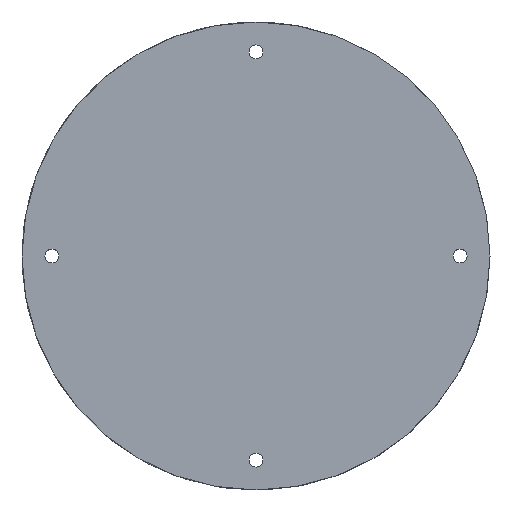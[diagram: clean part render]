
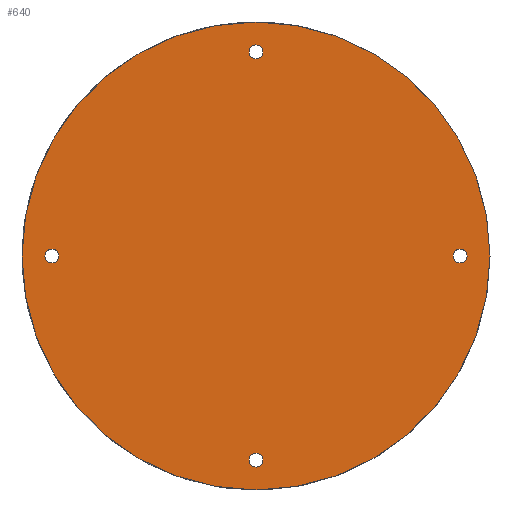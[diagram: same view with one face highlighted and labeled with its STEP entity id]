
A CAD part, top view. The second image highlights one B-rep face of the part: STEP entity #640.
In plain terms, the highlighted planar face has unit normal (0, 0, 1).
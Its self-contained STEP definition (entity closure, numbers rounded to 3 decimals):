
#33 = CYLINDRICAL_SURFACE('',#34,47.);
#34 = AXIS2_PLACEMENT_3D('',#35,#36,#37);
#35 = CARTESIAN_POINT('',(0.,0.,0.));
#36 = DIRECTION('',(-0.,-0.,-1.));
#37 = DIRECTION('',(1.,0.,0.));
#64 = VERTEX_POINT('',#65);
#65 = CARTESIAN_POINT('',(47.,0.,12.));
#86 = EDGE_CURVE('',#64,#64,#87,.T.);
#87 = SURFACE_CURVE('',#88,(#93,#100),.PCURVE_S1.);
#88 = CIRCLE('',#89,47.);
#89 = AXIS2_PLACEMENT_3D('',#90,#91,#92);
#90 = CARTESIAN_POINT('',(0.,0.,12.));
#91 = DIRECTION('',(0.,0.,1.));
#92 = DIRECTION('',(1.,0.,0.));
#93 = PCURVE('',#33,#94);
#94 = DEFINITIONAL_REPRESENTATION('',(#95),#99);
#95 = LINE('',#96,#97);
#96 = CARTESIAN_POINT('',(-0.,-12.));
#97 = VECTOR('',#98,1.);
#98 = DIRECTION('',(-1.,0.));
#99 = ( GEOMETRIC_REPRESENTATION_CONTEXT(2) 
PARAMETRIC_REPRESENTATION_CONTEXT() REPRESENTATION_CONTEXT('2D SPACE',''
  ) );
#100 = PCURVE('',#101,#106);
#101 = PLANE('',#102);
#102 = AXIS2_PLACEMENT_3D('',#103,#104,#105);
#103 = CARTESIAN_POINT('',(0.,0.,12.));
#104 = DIRECTION('',(0.,0.,1.));
#105 = DIRECTION('',(1.,0.,-0.));
#106 = DEFINITIONAL_REPRESENTATION('',(#107),#111);
#107 = CIRCLE('',#108,47.);
#108 = AXIS2_PLACEMENT_2D('',#109,#110);
#109 = CARTESIAN_POINT('',(0.,0.));
#110 = DIRECTION('',(1.,0.));
#111 = ( GEOMETRIC_REPRESENTATION_CONTEXT(2) 
PARAMETRIC_REPRESENTATION_CONTEXT() REPRESENTATION_CONTEXT('2D SPACE',''
  ) );
#640 = ADVANCED_FACE('',(#641,#644,#679,#714,#749),#101,.T.);
#641 = FACE_BOUND('',#642,.T.);
#642 = EDGE_LOOP('',(#643));
#643 = ORIENTED_EDGE('',*,*,#86,.T.);
#644 = FACE_BOUND('',#645,.T.);
#645 = EDGE_LOOP('',(#646));
#646 = ORIENTED_EDGE('',*,*,#647,.T.);
#647 = EDGE_CURVE('',#648,#648,#650,.T.);
#648 = VERTEX_POINT('',#649);
#649 = CARTESIAN_POINT('',(1.4,-41.,12.));
#650 = SURFACE_CURVE('',#651,(#656,#667),.PCURVE_S1.);
#651 = CIRCLE('',#652,1.4);
#652 = AXIS2_PLACEMENT_3D('',#653,#654,#655);
#653 = CARTESIAN_POINT('',(0.,-41.,12.));
#654 = DIRECTION('',(0.,0.,-1.));
#655 = DIRECTION('',(1.,0.,0.));
#656 = PCURVE('',#101,#657);
#657 = DEFINITIONAL_REPRESENTATION('',(#658),#666);
#658 = ( BOUNDED_CURVE() B_SPLINE_CURVE(2,(#659,#660,#661,#662,#663,#664
,#665),.UNSPECIFIED.,.T.,.F.) B_SPLINE_CURVE_WITH_KNOTS((1,2,2,2,2,1),(
    -2.094,0.,2.094,4.189,6.283,
8.378),.UNSPECIFIED.) CURVE() GEOMETRIC_REPRESENTATION_ITEM() 
RATIONAL_B_SPLINE_CURVE((1.,0.5,1.,0.5,1.,0.5,1.)) REPRESENTATION_ITEM(
  '') );
#659 = CARTESIAN_POINT('',(1.4,-41.));
#660 = CARTESIAN_POINT('',(1.4,-43.425));
#661 = CARTESIAN_POINT('',(-0.7,-42.212));
#662 = CARTESIAN_POINT('',(-2.8,-41.));
#663 = CARTESIAN_POINT('',(-0.7,-39.788));
#664 = CARTESIAN_POINT('',(1.4,-38.575));
#665 = CARTESIAN_POINT('',(1.4,-41.));
#666 = ( GEOMETRIC_REPRESENTATION_CONTEXT(2) 
PARAMETRIC_REPRESENTATION_CONTEXT() REPRESENTATION_CONTEXT('2D SPACE',''
  ) );
#667 = PCURVE('',#668,#673);
#668 = CYLINDRICAL_SURFACE('',#669,1.4);
#669 = AXIS2_PLACEMENT_3D('',#670,#671,#672);
#670 = CARTESIAN_POINT('',(0.,-41.,-2.));
#671 = DIRECTION('',(-0.,-0.,-1.));
#672 = DIRECTION('',(1.,0.,0.));
#673 = DEFINITIONAL_REPRESENTATION('',(#674),#678);
#674 = LINE('',#675,#676);
#675 = CARTESIAN_POINT('',(-6.283,-14.));
#676 = VECTOR('',#677,1.);
#677 = DIRECTION('',(1.,-0.));
#678 = ( GEOMETRIC_REPRESENTATION_CONTEXT(2) 
PARAMETRIC_REPRESENTATION_CONTEXT() REPRESENTATION_CONTEXT('2D SPACE',''
  ) );
#679 = FACE_BOUND('',#680,.T.);
#680 = EDGE_LOOP('',(#681));
#681 = ORIENTED_EDGE('',*,*,#682,.T.);
#682 = EDGE_CURVE('',#683,#683,#685,.T.);
#683 = VERTEX_POINT('',#684);
#684 = CARTESIAN_POINT('',(-39.6,0.,12.));
#685 = SURFACE_CURVE('',#686,(#691,#702),.PCURVE_S1.);
#686 = CIRCLE('',#687,1.4);
#687 = AXIS2_PLACEMENT_3D('',#688,#689,#690);
#688 = CARTESIAN_POINT('',(-41.,0.,12.));
#689 = DIRECTION('',(0.,0.,-1.));
#690 = DIRECTION('',(1.,0.,0.));
#691 = PCURVE('',#101,#692);
#692 = DEFINITIONAL_REPRESENTATION('',(#693),#701);
#693 = ( BOUNDED_CURVE() B_SPLINE_CURVE(2,(#694,#695,#696,#697,#698,#699
,#700),.UNSPECIFIED.,.T.,.F.) B_SPLINE_CURVE_WITH_KNOTS((1,2,2,2,2,1),(
    -2.094,0.,2.094,4.189,6.283,
8.378),.UNSPECIFIED.) CURVE() GEOMETRIC_REPRESENTATION_ITEM() 
RATIONAL_B_SPLINE_CURVE((1.,0.5,1.,0.5,1.,0.5,1.)) REPRESENTATION_ITEM(
  '') );
#694 = CARTESIAN_POINT('',(-39.6,0.));
#695 = CARTESIAN_POINT('',(-39.6,-2.425));
#696 = CARTESIAN_POINT('',(-41.7,-1.212));
#697 = CARTESIAN_POINT('',(-43.8,0.));
#698 = CARTESIAN_POINT('',(-41.7,1.212));
#699 = CARTESIAN_POINT('',(-39.6,2.425));
#700 = CARTESIAN_POINT('',(-39.6,0.));
#701 = ( GEOMETRIC_REPRESENTATION_CONTEXT(2) 
PARAMETRIC_REPRESENTATION_CONTEXT() REPRESENTATION_CONTEXT('2D SPACE',''
  ) );
#702 = PCURVE('',#703,#708);
#703 = CYLINDRICAL_SURFACE('',#704,1.4);
#704 = AXIS2_PLACEMENT_3D('',#705,#706,#707);
#705 = CARTESIAN_POINT('',(-41.,0.,-2.));
#706 = DIRECTION('',(-0.,-0.,-1.));
#707 = DIRECTION('',(1.,0.,0.));
#708 = DEFINITIONAL_REPRESENTATION('',(#709),#713);
#709 = LINE('',#710,#711);
#710 = CARTESIAN_POINT('',(-6.283,-14.));
#711 = VECTOR('',#712,1.);
#712 = DIRECTION('',(1.,-0.));
#713 = ( GEOMETRIC_REPRESENTATION_CONTEXT(2) 
PARAMETRIC_REPRESENTATION_CONTEXT() REPRESENTATION_CONTEXT('2D SPACE',''
  ) );
#714 = FACE_BOUND('',#715,.T.);
#715 = EDGE_LOOP('',(#716));
#716 = ORIENTED_EDGE('',*,*,#717,.T.);
#717 = EDGE_CURVE('',#718,#718,#720,.T.);
#718 = VERTEX_POINT('',#719);
#719 = CARTESIAN_POINT('',(42.4,0.,12.));
#720 = SURFACE_CURVE('',#721,(#726,#737),.PCURVE_S1.);
#721 = CIRCLE('',#722,1.4);
#722 = AXIS2_PLACEMENT_3D('',#723,#724,#725);
#723 = CARTESIAN_POINT('',(41.,0.,12.));
#724 = DIRECTION('',(0.,0.,-1.));
#725 = DIRECTION('',(1.,0.,0.));
#726 = PCURVE('',#101,#727);
#727 = DEFINITIONAL_REPRESENTATION('',(#728),#736);
#728 = ( BOUNDED_CURVE() B_SPLINE_CURVE(2,(#729,#730,#731,#732,#733,#734
,#735),.UNSPECIFIED.,.T.,.F.) B_SPLINE_CURVE_WITH_KNOTS((1,2,2,2,2,1),(
    -2.094,0.,2.094,4.189,6.283,
8.378),.UNSPECIFIED.) CURVE() GEOMETRIC_REPRESENTATION_ITEM() 
RATIONAL_B_SPLINE_CURVE((1.,0.5,1.,0.5,1.,0.5,1.)) REPRESENTATION_ITEM(
  '') );
#729 = CARTESIAN_POINT('',(42.4,0.));
#730 = CARTESIAN_POINT('',(42.4,-2.425));
#731 = CARTESIAN_POINT('',(40.3,-1.212));
#732 = CARTESIAN_POINT('',(38.2,0.));
#733 = CARTESIAN_POINT('',(40.3,1.212));
#734 = CARTESIAN_POINT('',(42.4,2.425));
#735 = CARTESIAN_POINT('',(42.4,0.));
#736 = ( GEOMETRIC_REPRESENTATION_CONTEXT(2) 
PARAMETRIC_REPRESENTATION_CONTEXT() REPRESENTATION_CONTEXT('2D SPACE',''
  ) );
#737 = PCURVE('',#738,#743);
#738 = CYLINDRICAL_SURFACE('',#739,1.4);
#739 = AXIS2_PLACEMENT_3D('',#740,#741,#742);
#740 = CARTESIAN_POINT('',(41.,0.,-2.));
#741 = DIRECTION('',(-0.,-0.,-1.));
#742 = DIRECTION('',(1.,0.,0.));
#743 = DEFINITIONAL_REPRESENTATION('',(#744),#748);
#744 = LINE('',#745,#746);
#745 = CARTESIAN_POINT('',(-6.283,-14.));
#746 = VECTOR('',#747,1.);
#747 = DIRECTION('',(1.,-0.));
#748 = ( GEOMETRIC_REPRESENTATION_CONTEXT(2) 
PARAMETRIC_REPRESENTATION_CONTEXT() REPRESENTATION_CONTEXT('2D SPACE',''
  ) );
#749 = FACE_BOUND('',#750,.T.);
#750 = EDGE_LOOP('',(#751));
#751 = ORIENTED_EDGE('',*,*,#752,.T.);
#752 = EDGE_CURVE('',#753,#753,#755,.T.);
#753 = VERTEX_POINT('',#754);
#754 = CARTESIAN_POINT('',(1.4,41.,12.));
#755 = SURFACE_CURVE('',#756,(#761,#772),.PCURVE_S1.);
#756 = CIRCLE('',#757,1.4);
#757 = AXIS2_PLACEMENT_3D('',#758,#759,#760);
#758 = CARTESIAN_POINT('',(0.,41.,12.));
#759 = DIRECTION('',(0.,0.,-1.));
#760 = DIRECTION('',(1.,0.,0.));
#761 = PCURVE('',#101,#762);
#762 = DEFINITIONAL_REPRESENTATION('',(#763),#771);
#763 = ( BOUNDED_CURVE() B_SPLINE_CURVE(2,(#764,#765,#766,#767,#768,#769
,#770),.UNSPECIFIED.,.T.,.F.) B_SPLINE_CURVE_WITH_KNOTS((1,2,2,2,2,1),(
    -2.094,0.,2.094,4.189,6.283,
8.378),.UNSPECIFIED.) CURVE() GEOMETRIC_REPRESENTATION_ITEM() 
RATIONAL_B_SPLINE_CURVE((1.,0.5,1.,0.5,1.,0.5,1.)) REPRESENTATION_ITEM(
  '') );
#764 = CARTESIAN_POINT('',(1.4,41.));
#765 = CARTESIAN_POINT('',(1.4,38.575));
#766 = CARTESIAN_POINT('',(-0.7,39.788));
#767 = CARTESIAN_POINT('',(-2.8,41.));
#768 = CARTESIAN_POINT('',(-0.7,42.212));
#769 = CARTESIAN_POINT('',(1.4,43.425));
#770 = CARTESIAN_POINT('',(1.4,41.));
#771 = ( GEOMETRIC_REPRESENTATION_CONTEXT(2) 
PARAMETRIC_REPRESENTATION_CONTEXT() REPRESENTATION_CONTEXT('2D SPACE',''
  ) );
#772 = PCURVE('',#773,#778);
#773 = CYLINDRICAL_SURFACE('',#774,1.4);
#774 = AXIS2_PLACEMENT_3D('',#775,#776,#777);
#775 = CARTESIAN_POINT('',(0.,41.,-2.));
#776 = DIRECTION('',(-0.,-0.,-1.));
#777 = DIRECTION('',(1.,0.,0.));
#778 = DEFINITIONAL_REPRESENTATION('',(#779),#783);
#779 = LINE('',#780,#781);
#780 = CARTESIAN_POINT('',(-6.283,-14.));
#781 = VECTOR('',#782,1.);
#782 = DIRECTION('',(1.,-0.));
#783 = ( GEOMETRIC_REPRESENTATION_CONTEXT(2) 
PARAMETRIC_REPRESENTATION_CONTEXT() REPRESENTATION_CONTEXT('2D SPACE',''
  ) );
